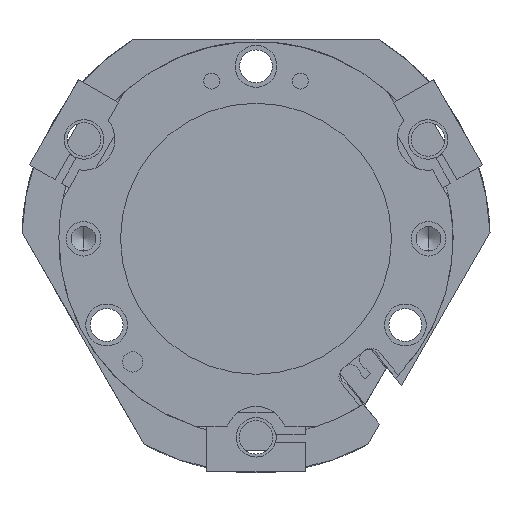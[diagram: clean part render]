
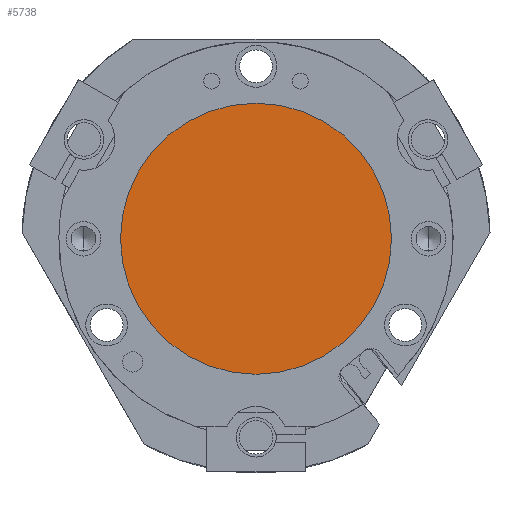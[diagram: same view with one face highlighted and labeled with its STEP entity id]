
A CAD part, front view. The second image highlights one B-rep face of the part: STEP entity #5738.
In plain terms, the highlighted planar face has unit normal (0, -1, 0) as drawn and (0, 1, 0) by its records, which use the part's own axes.
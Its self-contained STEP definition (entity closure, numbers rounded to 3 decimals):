
#199 = CARTESIAN_POINT ( 'NONE',  ( 0., 5., 27.5 ) ) ;
#371 = AXIS2_PLACEMENT_3D ( 'NONE', #6710, #12469, #6492 ) ;
#381 = DIRECTION ( 'NONE',  ( 0., 1., 0. ) ) ;
#1268 = CARTESIAN_POINT ( 'NONE',  ( 0., 5., 0. ) ) ;
#1820 = VERTEX_POINT ( 'NONE', #199 ) ;
#1852 = FACE_OUTER_BOUND ( 'NONE', #9322, .T. ) ;
#4378 = DIRECTION ( 'NONE',  ( 1., 0., 0. ) ) ;
#4553 = AXIS2_PLACEMENT_3D ( 'NONE', #6213, #381, #7202 ) ;
#4818 = CIRCLE ( 'NONE', #8629, 27.5 ) ;
#5017 = DIRECTION ( 'NONE',  ( 0., 1., 0. ) ) ;
#5738 = ADVANCED_FACE ( 'NONE', ( #1852 ), #6497, .T. ) ;
#6213 = CARTESIAN_POINT ( 'NONE',  ( 0., 5., 0. ) ) ;
#6492 = DIRECTION ( 'NONE',  ( 0., 0., 1. ) ) ;
#6497 = PLANE ( 'NONE',  #371 ) ;
#6710 = CARTESIAN_POINT ( 'NONE',  ( 0., 5., 0. ) ) ;
#6943 = CARTESIAN_POINT ( 'NONE',  ( 0., 5., -27.5 ) ) ;
#7202 = DIRECTION ( 'NONE',  ( 1., 0., 0. ) ) ;
#7262 = EDGE_CURVE ( 'NONE', #10494, #1820, #12674, .T. ) ;
#8629 = AXIS2_PLACEMENT_3D ( 'NONE', #1268, #5017, #4378 ) ;
#9322 = EDGE_LOOP ( 'NONE', ( #9392, #12280 ) ) ;
#9392 = ORIENTED_EDGE ( 'NONE', *, *, #7262, .T. ) ;
#10494 = VERTEX_POINT ( 'NONE', #6943 ) ;
#11098 = EDGE_CURVE ( 'NONE', #1820, #10494, #4818, .T. ) ;
#12280 = ORIENTED_EDGE ( 'NONE', *, *, #11098, .T. ) ;
#12469 = DIRECTION ( 'NONE',  ( 0., 1., 0. ) ) ;
#12674 = CIRCLE ( 'NONE', #4553, 27.5 ) ;
